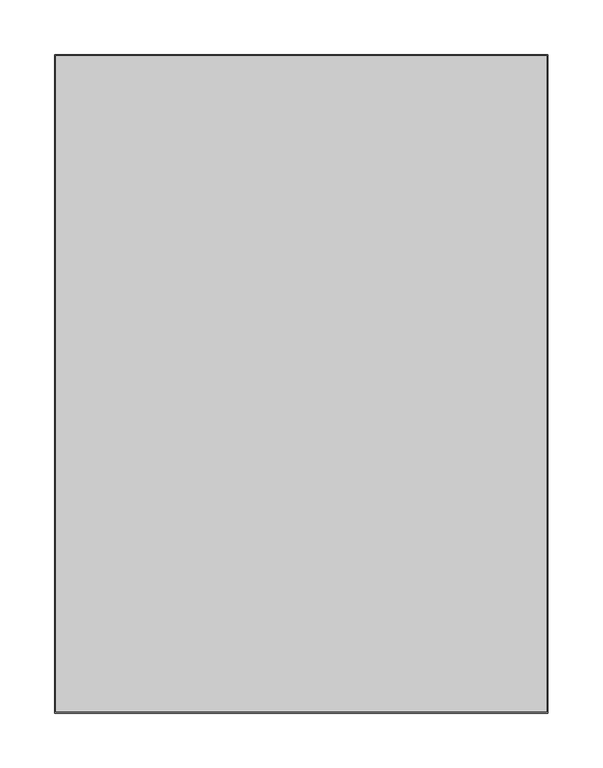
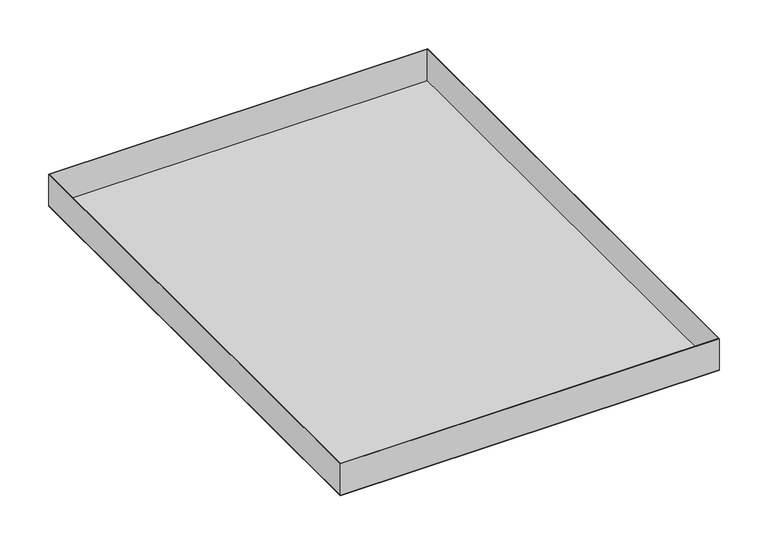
"""IFC4 building model written with IfcOpenShell, lengths in millimetres: proxy geometry, durlum_S5-100_RHOMBOS_panel : durlum_S5-100_RHOMBOS_panel_wall_length_cut."""

from ifc_helpers import new_model, si_unit, frame, origin, origin_with_axes, place, context, project, spatial, polyline, outline, extrude, source, transform, mapped, element, save


def generic_models_58ce1d20(model_context):
    return source(origin(), model_context, "Body", "SweptSolid", [
        extrude(outline(polyline([(224.75, 299.75), (224.75, -299.75), (-224.75, -299.75), (-224.75, 299.75), (224.75, 299.75)]), holes=[polyline([(223.75, 298.75), (-223.75, 298.75), (-223.75, -298.75), (223.75, -298.75), (223.75, 298.75)])]), frame((0.0, 0.0, 1.0), z_axis=(0.0, 0.0, 1.0), x_axis=(1.0, 0.0, 0.0)), (0.0, 0.0, 1.0), 39.0),
        extrude(outline(polyline([(224.75, 299.75), (224.75, -299.75), (-224.75, -299.75), (-224.75, 299.75), (224.75, 299.75)])), origin_with_axes(), (0.0, 0.0, 1.0), 1.0),
    ])


if __name__ == "__main__":
    model = new_model("IFC4")
    model_context = context("Model", 3, world=origin())
    ifc_project = project(units=[si_unit("LENGTHUNIT", "METRE", prefix="MILLI")], contexts=[model_context])
    site = spatial("IfcSite", under=ifc_project)
    building = spatial("IfcBuilding", under=site)
    placement = place(None, origin())
    generic_models_shape = generic_models_58ce1d20(model_context)
    element("IfcBuildingElementProxy", 1, Name="durlum_S5-100_RHOMBOS_panel : durlum_S5-100_RHOMBOS_panel_wall_length_cut", ObjectType="durlum_S5-100_RHOMBOS_panel : durlum_S5-100_RHOMBOS_panel_wall_length_cut", at=placement, inside=building, context=model_context, shape_type="MappedRepresentation", body=[
        mapped(generic_models_shape, transform((0.0, 0.0, 0.0), x_axis=(1.0, 0.0, 0.0), y_axis=(0.0, 1.0, 0.0), z_axis=(0.0, 0.0, 1.0))),
    ])
    save(model, "model.ifc")
